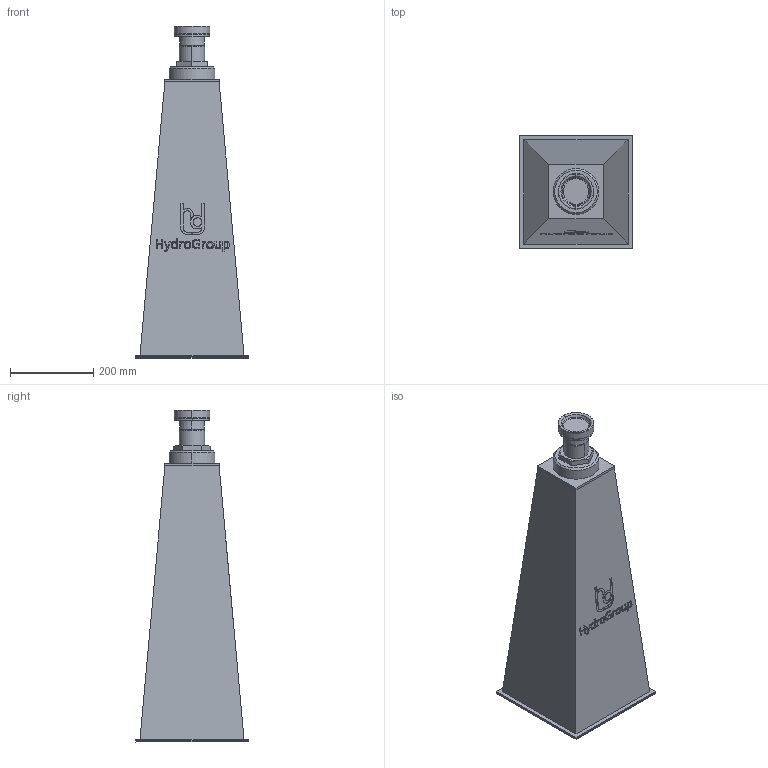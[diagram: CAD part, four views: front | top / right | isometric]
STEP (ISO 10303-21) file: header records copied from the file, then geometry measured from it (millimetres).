
FILE_DESCRIPTION(('STEP AP214'),'1');
FILE_NAME('RSRFE-I-09-V0.stp','2018-06-27T13:30:39',(' '),(' '),'Spatial InterOp 3D',' ',' ');
FILE_SCHEMA(('automotive_design'));
Length unit declared in the file: millimetre
Products named in the file (6): 1; 2; 3; 4; 5; 6
Bounding box: 270 x 270 x 796.99 mm (x, y, z)
Volume: 26232201 mm3; surface area: 878887.6 mm2
Topology: 6 solids, 6 shells, 227 faces, 562 edges, 367 vertices
Faces by surface type: plane 136, cylinder 33, cone 24, extrusion 24, torus 10
Entity records: 9174 total; most frequent: CARTESIAN_POINT 1836, ORIENTED_EDGE 1124, DIRECTION 1065, EDGE_CURVE 562, VECTOR 405, LINE 381, VERTEX_POINT 367, AXIS2_PLACEMENT_3D 330
